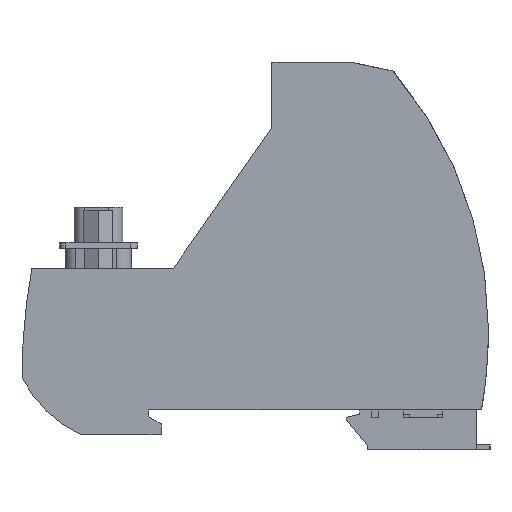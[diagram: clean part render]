
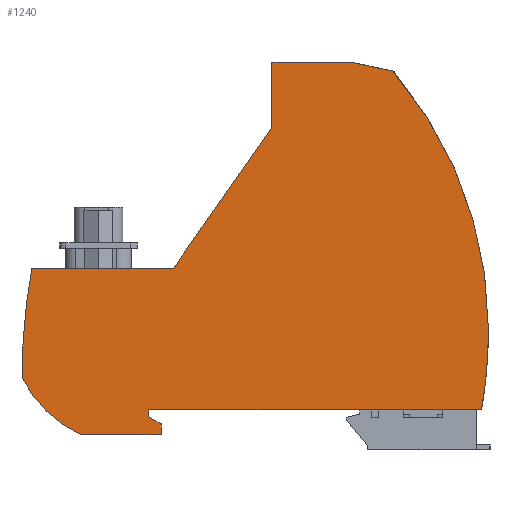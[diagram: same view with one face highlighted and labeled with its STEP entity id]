
A CAD part, left-side view. The second image highlights one B-rep face of the part: STEP entity #1240.
In plain terms, the highlighted planar face has unit normal (-1, 0, 0) as drawn and (0, 0, 1) by its records, which use the part's own axes.
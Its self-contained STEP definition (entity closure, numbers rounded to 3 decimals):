
#10=CARTESIAN_POINT('',(-44.066,24.302,76.81));
#20=DIRECTION('',(0.,0.,1.));
#30=DIRECTION('',(1.,0.,0.));
#40=AXIS2_PLACEMENT_3D('',#10,#20,#30);
#50=PLANE('',#40);
#60=CARTESIAN_POINT('',(-34.48,0.5,76.81));
#70=DIRECTION('',(0.,1.,0.));
#80=VECTOR('',#70,1.);
#90=LINE('',#60,#80);
#100=CARTESIAN_POINT('',(-34.48,47.6,76.81));
#110=VERTEX_POINT('',#100);
#120=CARTESIAN_POINT('',(-34.48,58.22,76.81));
#130=VERTEX_POINT('',#120);
#140=EDGE_CURVE('',#110,#130,#90,.T.);
#150=ORIENTED_EDGE('',*,*,#140,.F.);
#160=CARTESIAN_POINT('',(-4.629,58.22,76.81));
#170=DIRECTION('',(-1.,0.,0.));
#180=VECTOR('',#170,1.);
#190=LINE('',#160,#180);
#200=CARTESIAN_POINT('',(-21.696,58.22,76.81));
#210=VERTEX_POINT('',#200);
#220=EDGE_CURVE('',#210,#130,#190,.T.);
#230=ORIENTED_EDGE('',*,*,#220,.T.);
#240=CARTESIAN_POINT('',(-0.1,53.63,76.81));
#250=DIRECTION('',(0.978,-0.208,0.));
#260=VECTOR('',#250,1.);
#270=LINE('',#240,#260);
#280=CARTESIAN_POINT('',(-14.807,56.756,76.81));
#290=VERTEX_POINT('',#280);
#300=EDGE_CURVE('',#210,#290,#270,.T.);
#310=ORIENTED_EDGE('',*,*,#300,.F.);
#320=CARTESIAN_POINT('',(-63.8,14.804,76.81));
#330=DIRECTION('',(0.,0.,1.));
#340=DIRECTION('',(1.,0.,0.));
#350=AXIS2_PLACEMENT_3D('',#320,#330,#340);
#360=CIRCLE('',#350,64.5);
#370=CARTESIAN_POINT('',(0.7,14.804,76.81));
#380=VERTEX_POINT('',#370);
#390=EDGE_CURVE('',#380,#290,#360,.T.);
#400=ORIENTED_EDGE('',*,*,#390,.T.);
#410=CARTESIAN_POINT('',(-75.5,14.804,76.81));
#420=DIRECTION('',(0.,0.,1.));
#430=DIRECTION('',(1.,0.,0.));
#440=AXIS2_PLACEMENT_3D('',#410,#420,#430);
#450=CIRCLE('',#440,76.2);
#460=CARTESIAN_POINT('',(-0.435,1.7,76.81));
#470=VERTEX_POINT('',#460);
#480=EDGE_CURVE('',#470,#380,#450,.T.);
#490=ORIENTED_EDGE('',*,*,#480,.T.);
#500=CARTESIAN_POINT('',(0.,1.7,76.81));
#510=DIRECTION('',(1.,0.,0.));
#520=VECTOR('',#510,1.);
#530=LINE('',#500,#520);
#540=CARTESIAN_POINT('',(-54.5,1.7,76.81));
#550=VERTEX_POINT('',#540);
#560=EDGE_CURVE('',#550,#470,#530,.T.);
#570=ORIENTED_EDGE('',*,*,#560,.T.);
#580=CARTESIAN_POINT('',(-54.5,2.5,76.81));
#590=DIRECTION('',(0.,-1.,0.));
#600=VECTOR('',#590,1.);
#610=LINE('',#580,#600);
#620=CARTESIAN_POINT('',(-54.5,0.6,76.81));
#630=VERTEX_POINT('',#620);
#640=EDGE_CURVE('',#550,#630,#610,.T.);
#650=ORIENTED_EDGE('',*,*,#640,.F.);
#660=CARTESIAN_POINT('',(-4.23,-28.423,76.81));
#670=DIRECTION('',(0.866,-0.5,0.));
#680=VECTOR('',#670,1.);
#690=LINE('',#660,#680);
#700=CARTESIAN_POINT('',(-52.5,-0.555,76.81));
#710=VERTEX_POINT('',#700);
#720=EDGE_CURVE('',#630,#710,#690,.T.);
#730=ORIENTED_EDGE('',*,*,#720,.F.);
#740=CARTESIAN_POINT('',(-52.5,2.5,76.81));
#750=DIRECTION('',(0.,1.,0.));
#760=VECTOR('',#750,1.);
#770=LINE('',#740,#760);
#780=CARTESIAN_POINT('',(-52.5,-2.3,76.81));
#790=VERTEX_POINT('',#780);
#800=EDGE_CURVE('',#790,#710,#770,.T.);
#810=ORIENTED_EDGE('',*,*,#800,.T.);
#820=CARTESIAN_POINT('',(-0.1,-2.3,76.81));
#830=DIRECTION('',(1.,0.,0.));
#840=VECTOR('',#830,1.);
#850=LINE('',#820,#840);
#860=CARTESIAN_POINT('',(-65.6,-2.3,76.81));
#870=VERTEX_POINT('',#860);
#880=EDGE_CURVE('',#870,#790,#850,.T.);
#890=ORIENTED_EDGE('',*,*,#880,.T.);
#900=CARTESIAN_POINT('',(-57.187,15.844,76.81));
#910=DIRECTION('',(0.,0.,1.));
#920=DIRECTION('',(0.985,-0.174,0.));
#930=AXIS2_PLACEMENT_3D('',#900,#910,#920);
#940=CIRCLE('',#930,20.);
#950=CARTESIAN_POINT('',(-75.1,6.95,76.81));
#960=VERTEX_POINT('',#950);
#970=EDGE_CURVE('',#960,#870,#940,.T.);
#980=ORIENTED_EDGE('',*,*,#970,.T.);
#990=CARTESIAN_POINT('',(24.9,6.95,76.81));
#1000=DIRECTION('',(0.,0.,1.));
#1010=DIRECTION('',(-1.,0.,0.));
#1020=AXIS2_PLACEMENT_3D('',#990,#1000,#1010);
#1030=CIRCLE('',#1020,100.);
#1040=CARTESIAN_POINT('',(-73.503,24.75,76.81));
#1050=VERTEX_POINT('',#1040);
#1060=EDGE_CURVE('',#1050,#960,#1030,.T.);
#1070=ORIENTED_EDGE('',*,*,#1060,.T.);
#1080=CARTESIAN_POINT('',(-0.1,24.75,76.81));
#1090=DIRECTION('',(-1.,0.,0.));
#1100=VECTOR('',#1090,1.);
#1110=LINE('',#1080,#1100);
#1120=CARTESIAN_POINT('',(-50.48,24.75,76.81));
#1130=VERTEX_POINT('',#1120);
#1140=EDGE_CURVE('',#1130,#1050,#1110,.T.);
#1150=ORIENTED_EDGE('',*,*,#1140,.T.);
#1160=CARTESIAN_POINT('',(-67.46,0.5,76.81));
#1170=DIRECTION('',(0.574,0.819,0.));
#1180=VECTOR('',#1170,1.);
#1190=LINE('',#1160,#1180);
#1200=EDGE_CURVE('',#1130,#110,#1190,.T.);
#1210=ORIENTED_EDGE('',*,*,#1200,.F.);
#1220=EDGE_LOOP('',(#1210,#1150,#1070,#980,#890,#810,#730,#650,#570,#490
,#400,#310,#230,#150));
#1230=FACE_OUTER_BOUND('',#1220,.T.);
#1240=ADVANCED_FACE('',(#1230),#50,.T.);
